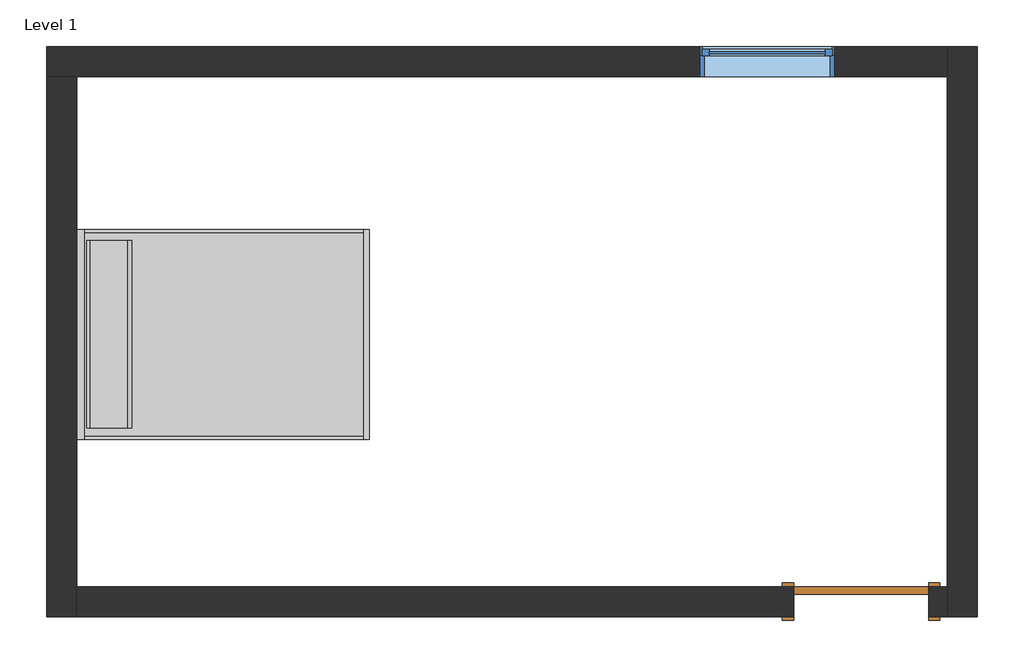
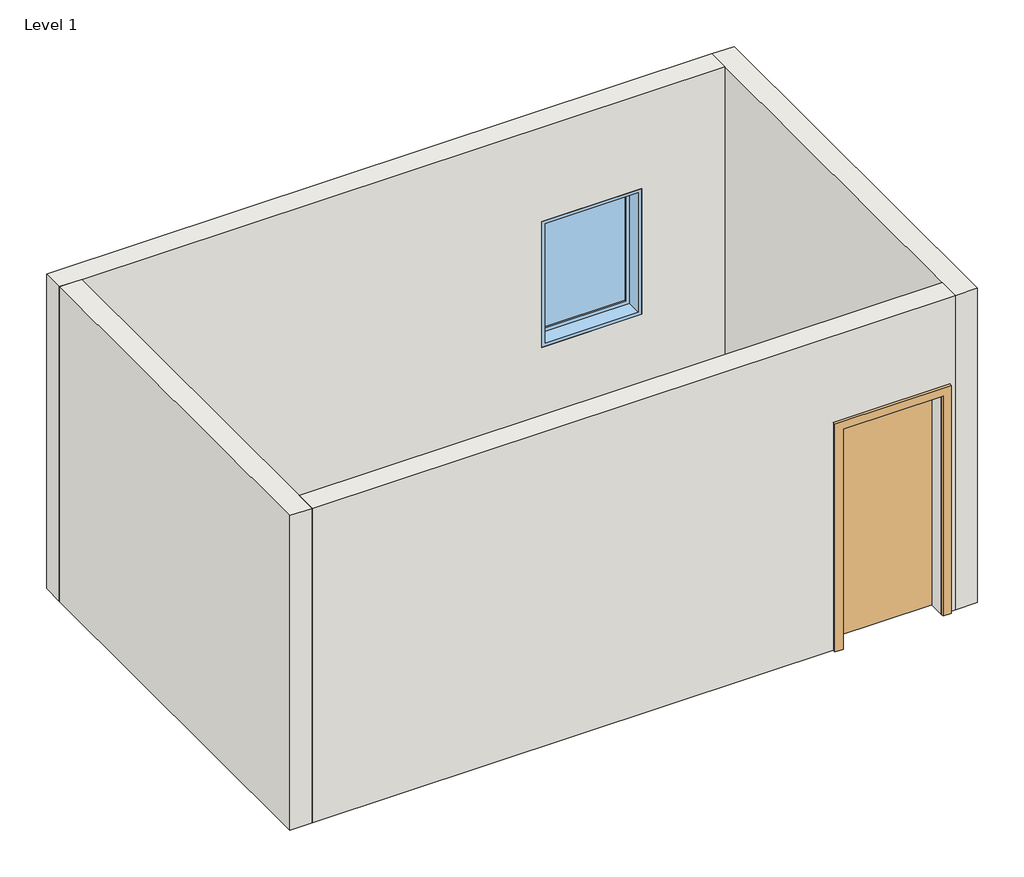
# One storey: 4 walls, 1 door, 1 furniture element, 1 window.
"""IFC4 building model written with IfcOpenShell, lengths in millimetres."""

from ifc_helpers import new_model, si_unit, frame, origin, place, context, project, spatial, polyline, outline, extrude, faceted_brep, transform, mapped, element, save
from components import door_54dd4da4, furniture_096e7f55, window_e2841890

model = new_model("IFC4")

# Units and contexts
model_context = context("Model", 3, world=origin())
ifc_project = project(units=[si_unit("LENGTHUNIT", "METRE", prefix="MILLI")], contexts=[model_context])

# Site, building, storey
site = spatial("IfcSite", under=ifc_project)
building = spatial("IfcBuilding", under=site)
storey = spatial("IfcBuildingStorey", under=building, Name="Level 1", Elevation=0.0)

# Door
placement = place(None, origin())
door_shape = door_54dd4da4(model_context)
element("IfcDoor", 1, ObjectType="Single-Flush : 36\" x 84\"", at=placement, inside=storey, context=model_context, shape_type="MappedRepresentation", body=[
    mapped(door_shape, transform((-3553.1010445, 7369.6879665, 0.0), x_axis=(1.0, 0.0, 0.0), y_axis=(0.0, 1.0, 0.0), z_axis=(0.0, 0.0, 1.0))),
])

# Furniture
furniture_shape = furniture_096e7f55(model_context)
element("IfcFurniture", 2, ObjectType="Bed-Shaker : Double 56\" x 78\"", at=placement, inside=storey, context=model_context, shape_type="MappedRepresentation", body=[
    mapped(furniture_shape, transform((-8861.7010445, 9198.4879665, 0.0), x_axis=(0.0, 1.0, 0.0), y_axis=(-1.0, 0.0, 0.0), z_axis=(0.0, 0.0, 1.0))),
])

# Walls
element("IfcWall", 3, ObjectType="Generic - 8\"", at=placement, inside=storey, context=model_context, shape_type="Brep", body=[
    faceted_brep([(-9064.9010445, 10925.6879665, 0.0), (-8861.7010445, 10925.6879665, 0.0), (-2968.9010445, 10925.6879665, 0.0), (-2968.9010445, 10925.6879665, 3048.0), (-8861.7010445, 10925.6879665, 3048.0), (-9064.9010445, 10925.6879665, 3048.0), (-3730.9010445, 10925.6879665, 2133.6), (-3730.9010445, 10925.6879665, 914.4), (-4645.3010445, 10925.6879665, 914.4), (-4645.3010445, 10925.6879665, 2133.6), (-9064.9010445, 11128.8879665, 0.0), (-9064.9010445, 11128.8879665, 3048.0), (-2968.9010445, 11128.8879665, 3048.0), (-2968.9010445, 11128.8879665, 0.0), (-3730.9010445, 11128.8879665, 2133.6), (-4645.3010445, 11128.8879665, 2133.6), (-4645.3010445, 11128.8879665, 914.4), (-3730.9010445, 11128.8879665, 914.4)], [[[0, 1, 2, 3, 4, 5], [6, 7, 8, 9]], [[10, 11, 12, 13], [14, 15, 16, 17]], [[2, 1, 0, 10, 13]], [[5, 4, 3, 12, 11]], [[0, 5, 11, 10]], [[3, 2, 13, 12]], [[7, 6, 14, 17]], [[8, 7, 17, 16]], [[9, 8, 16, 15]], [[6, 9, 15, 14]]]),
])
element("IfcWall", 4, ObjectType="Generic - 8\"", at=placement, inside=storey, context=model_context, shape_type="Brep", body=[
    faceted_brep([(-8861.7010445, 7268.0879665, 0.0), (-8861.7010445, 7471.2879665, 0.0), (-8861.7010445, 10925.6879665, 0.0), (-8861.7010445, 10925.6879665, 3048.0), (-8861.7010445, 7471.2879665, 3048.0), (-8861.7010445, 7268.0879665, 3048.0), (-9064.9010445, 7268.0879665, 0.0), (-9064.9010445, 7268.0879665, 3048.0), (-9064.9010445, 10925.6879665, 3048.0), (-9064.9010445, 10925.6879665, 0.0)], [[[0, 1, 2, 3, 4, 5]], [[6, 7, 8, 9]], [[2, 1, 0, 6, 9]], [[5, 4, 3, 8, 7]], [[0, 5, 7, 6]], [[3, 2, 9, 8]]]),
])
element("IfcWall", 5, ObjectType="Generic - 8\"", at=placement, inside=storey, context=model_context, shape_type="SweptSolid", body=[
    extrude(outline(polyline([(2133.6, -3095.9010445), (0.0, -3095.9010445), (0.0, -2968.9010445), (3048.0, -2968.9010445), (3048.0, -8861.7010445), (0.0, -8861.7010445), (0.0, -4010.3010445), (2133.6, -4010.3010445), (2133.6, -3095.9010445)])), frame((0.0, 7268.0879665, 0.0), z_axis=(0.0, 1.0, 0.0), x_axis=(0.0, 0.0, 1.0)), (0.0, 0.0, 1.0), 203.2),
])
element("IfcWall", 6, ObjectType="Generic - 8\"", at=placement, inside=storey, context=model_context, shape_type="Brep", body=[
    faceted_brep([(-2968.9010445, 11128.8879665, 0.0), (-2968.9010445, 10925.6879665, 0.0), (-2968.9010445, 7471.2879665, 0.0), (-2968.9010445, 7268.0879665, 0.0), (-2968.9010445, 7268.0879665, 3048.0), (-2968.9010445, 7471.2879665, 3048.0), (-2968.9010445, 10925.6879665, 3048.0), (-2968.9010445, 11128.8879665, 3048.0), (-2765.7010445, 11128.8879665, 0.0), (-2765.7010445, 11128.8879665, 3048.0), (-2765.7010445, 7268.0879665, 3048.0), (-2765.7010445, 7268.0879665, 0.0)], [[[0, 1, 2, 3, 4, 5, 6, 7]], [[8, 9, 10, 11]], [[3, 2, 1, 0, 8, 11]], [[7, 6, 5, 4, 10, 9]], [[0, 7, 9, 8]], [[4, 3, 11, 10]]]),
])

# Window
window_shape = window_e2841890(model_context)
element("IfcWindow", 7, ObjectType="Fixed : 36\" x 48\"", at=placement, inside=storey, context=model_context, shape_type="MappedRepresentation", body=[
    mapped(window_shape, transform((-4150.0010445, 11027.2879665, 0.0), x_axis=(1.0, 0.0, 0.0), y_axis=(0.0, 1.0, 0.0), z_axis=(0.0, 0.0, 1.0))),
])

save(model, "model.ifc")
